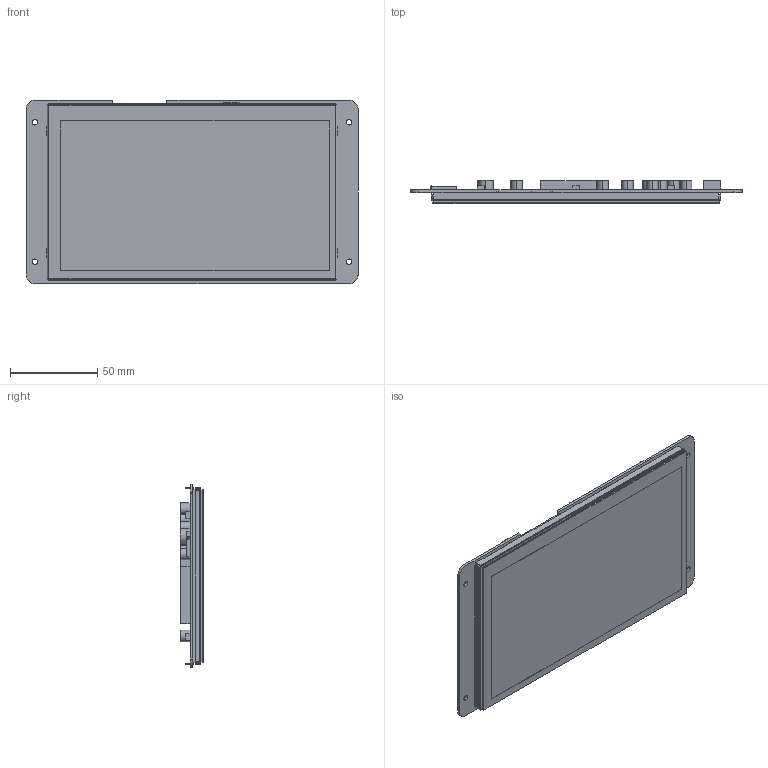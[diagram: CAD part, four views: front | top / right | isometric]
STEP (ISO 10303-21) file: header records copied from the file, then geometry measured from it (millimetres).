
FILE_DESCRIPTION (( 'STEP AP214' ), '1' );
FILE_NAME ('DMG10600T070-09WTC 3D.STEP', '2023-09-15T08:58:39', ( '' ), ( 'Microsoft' ), 'SwSTEP 2.0', 'SolidWorks 2017', '' );
FILE_SCHEMA (( 'AUTOMOTIVE_DESIGN' ));
Length unit declared in the file: millimetre
Products named in the file (5): TPC070T0092G01V1-馱最芞; LI10600T070HC7004; TK070019; DMG10600T070-09W; DMG10600T070-09WTC 3D
Assembly tree (4 placements, depth 2):
  DMG10600T070-09WTC 3D
    DMG10600T070-09W
    TK070019
    LI10600T070HC7004
    TPC070T0092G01V1-馱最芞
Bounding box: 190.5 x 13.47 x 105.41 mm (x, y, z)
Volume: 112840.6 mm3; surface area: 122689.3 mm2
Topology: 4 solids, 4 shells, 393 faces, 1071 edges, 706 vertices
Faces by surface type: plane 235, cylinder 150, bspline 8
Entity records: 16579 total; most frequent: CARTESIAN_POINT 2402, ORIENTED_EDGE 2142, DIRECTION 2122, EDGE_CURVE 1071, LINE 766, VECTOR 766, VERTEX_POINT 706, AXIS2_PLACEMENT_3D 678
